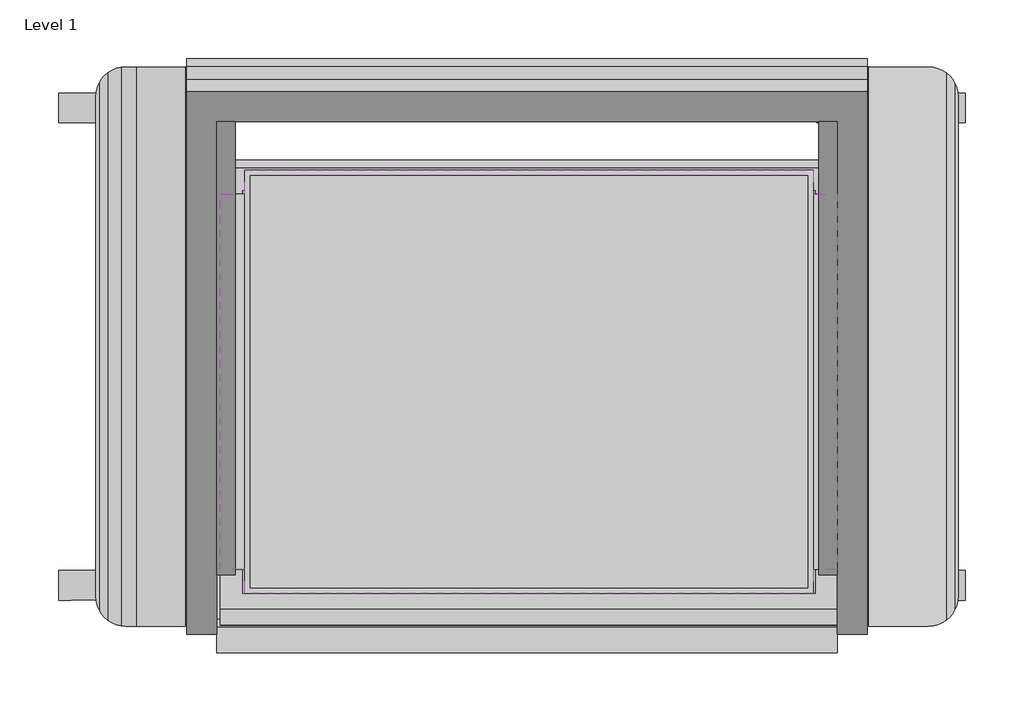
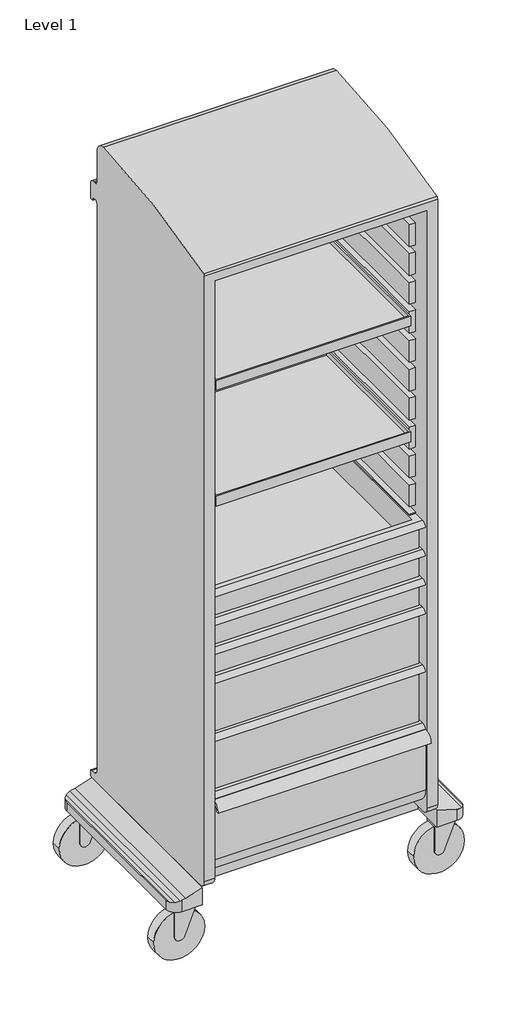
# One storey: 9 furniture elements.
"""IFC4 building model written with IfcOpenShell, lengths in millimetres."""

from ifc_helpers import new_model, si_unit, origin, place, context, project, spatial, transform, mapped, element, save
from components import furniture_57446897, furniture_9bd7f3dd, furniture_e1d5eda1, a_3_be31ec70, a_3_4c20d9f5, a_3_a4d30848, b_6_e607353f, b_6_86f14c1b, b_6_80401fae

model = new_model("IFC4")

# Units and contexts
model_context = context("Model", 3, world=origin())
ifc_project = project(units=[si_unit("LENGTHUNIT", "METRE", prefix="MILLI")], contexts=[model_context])

# Site, building, storey
site = spatial("IfcSite", under=ifc_project)
building = spatial("IfcBuilding", under=site)
storey = spatial("IfcBuildingStorey", under=building, Name="Level 1", Elevation=0.0)

# Furniture
placement = place(None, origin())
furniture_shape = furniture_57446897(model_context)
element("IfcFurniture", 1, ObjectType="HermanMiller_CoStruc_CO561_LockerWithTambourDoor : 72\"H x 20\"D x 22\"W", at=placement, inside=storey, context=model_context, shape_type="MappedRepresentation", body=[
    mapped(furniture_shape, transform((369.0462244, -246.0625, 0.0), x_axis=(1.0, 0.0, 0.0), y_axis=(0.0, 1.0, 0.0), z_axis=(0.0, 0.0, 1.0))),
])
furniture_2_shape = furniture_9bd7f3dd(model_context)
element("IfcFurniture", 2, ObjectType="HermanMiller_CoStruc_CO203_CTrayShelf : 14\"D x 20\"W", at=placement, inside=storey, context=model_context, shape_type="MappedRepresentation", body=[
    mapped(furniture_2_shape, transform((370.6337244, -276.225, 0.0), x_axis=(1.0, 0.0, 0.0), y_axis=(0.0, 1.0, 0.0), z_axis=(0.0, 0.0, 1.0))),
])
furniture_3_shape = furniture_e1d5eda1(model_context)
element("IfcFurniture", 3, ObjectType="HermanMiller_CoStruc_CO203_CTrayShelf : 14\"D x 20\"W", at=placement, inside=storey, context=model_context, shape_type="MappedRepresentation", body=[
    mapped(furniture_3_shape, transform((370.6337244, -276.225, 0.0), x_axis=(1.0, 0.0, 0.0), y_axis=(0.0, 1.0, 0.0), z_axis=(0.0, 0.0, 1.0))),
])
a_3_shape = a_3_be31ec70(model_context)
element("IfcFurniture", 4, ObjectType="HermanMiller_CoStruc_CO207_Drawer : A - 3", at=placement, inside=storey, context=model_context, shape_type="MappedRepresentation", body=[
    mapped(a_3_shape, transform((370.566376, -288.925, 0.0), x_axis=(1.0, 0.0, 0.0), y_axis=(0.0, 1.0, 0.0), z_axis=(0.0, 0.0, 1.0))),
])
a_3_2_shape = a_3_4c20d9f5(model_context)
element("IfcFurniture", 5, ObjectType="HermanMiller_CoStruc_CO207_Drawer : A - 3", at=placement, inside=storey, context=model_context, shape_type="MappedRepresentation", body=[
    mapped(a_3_2_shape, transform((370.566376, -288.925, 0.0), x_axis=(1.0, 0.0, 0.0), y_axis=(0.0, 1.0, 0.0), z_axis=(0.0, 0.0, 1.0))),
])
a_3_3_shape = a_3_a4d30848(model_context)
element("IfcFurniture", 6, ObjectType="HermanMiller_CoStruc_CO207_Drawer : A - 3", at=placement, inside=storey, context=model_context, shape_type="MappedRepresentation", body=[
    mapped(a_3_3_shape, transform((370.566376, -288.925, 0.0), x_axis=(1.0, 0.0, 0.0), y_axis=(0.0, 1.0, 0.0), z_axis=(0.0, 0.0, 1.0))),
])
b_6_shape = b_6_e607353f(model_context)
element("IfcFurniture", 7, ObjectType="HermanMiller_CoStruc_CO207_Drawer : B - 6", at=placement, inside=storey, context=model_context, shape_type="MappedRepresentation", body=[
    mapped(b_6_shape, transform((370.566376, -288.925, 0.0), x_axis=(1.0, 0.0, 0.0), y_axis=(0.0, 1.0, 0.0), z_axis=(0.0, 0.0, 1.0))),
])
b_6_2_shape = b_6_86f14c1b(model_context)
element("IfcFurniture", 8, ObjectType="HermanMiller_CoStruc_CO207_Drawer : B - 6", at=placement, inside=storey, context=model_context, shape_type="MappedRepresentation", body=[
    mapped(b_6_2_shape, transform((370.566376, -288.925, 0.0), x_axis=(1.0, 0.0, 0.0), y_axis=(0.0, 1.0, 0.0), z_axis=(0.0, 0.0, 1.0))),
])
b_6_3_shape = b_6_80401fae(model_context)
element("IfcFurniture", 9, ObjectType="HermanMiller_CoStruc_CO207_Drawer : B - 6", at=placement, inside=storey, context=model_context, shape_type="MappedRepresentation", body=[
    mapped(b_6_3_shape, transform((370.566376, -288.925, 0.0), x_axis=(1.0, 0.0, 0.0), y_axis=(0.0, 1.0, 0.0), z_axis=(0.0, 0.0, 1.0))),
])

save(model, "model.ifc")
